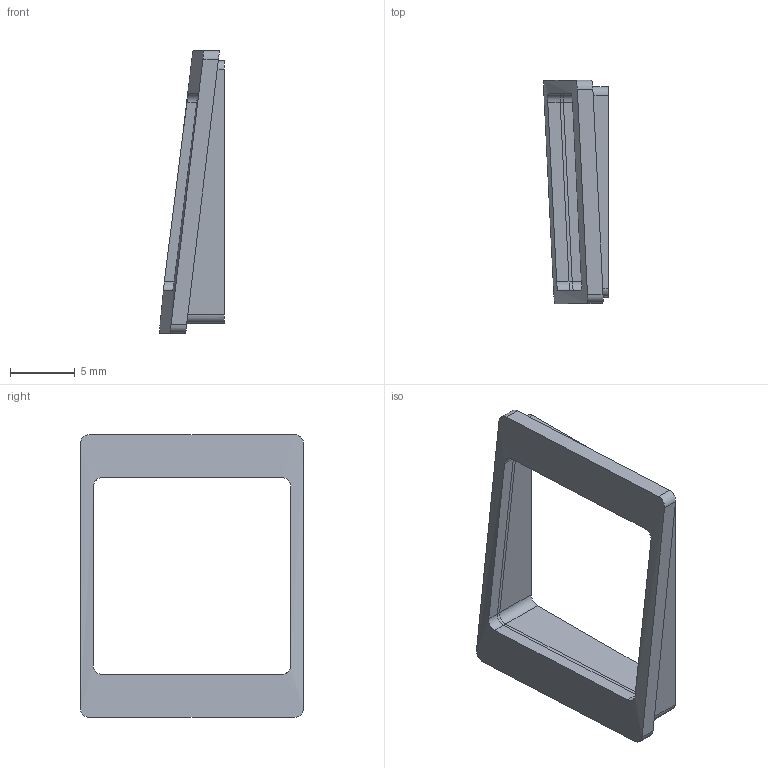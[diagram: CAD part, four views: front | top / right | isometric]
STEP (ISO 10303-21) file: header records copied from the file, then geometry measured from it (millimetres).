
FILE_DESCRIPTION(('Open CASCADE Model'),'2;1');
FILE_NAME('Open CASCADE Shape Model','2026-10-28T00:37:43',('Author'),( 'Open CASCADE'),'Open CASCADE STEP processor 7.8','Open CASCADE 7.8' ,'Unknown');
FILE_SCHEMA(('AUTOMOTIVE_DESIGN { 1 0 10303 214 1 1 1 1 }'));
Length unit declared in the file: millimetre
Products named in the file (1): Open CASCADE STEP translator 7.8 4
Bounding box: 5 x 17.2 x 21.8 mm (x, y, z)
Volume: 380.8 mm3; surface area: 740.5 mm2
Topology: 1 solids, 1 shells, 43 faces, 108 edges, 68 vertices
Faces by surface type: plane 21, cylinder 20, bspline 2
Entity records: 8765 total; most frequent: CARTESIAN_POINT 6879, DIRECTION 244, ORIENTED_EDGE 216, PCURVE 216, DEFINITIONAL_REPRESENTATION 216, B_SPLINE_CURVE_WITH_KNOTS 172, LINE 136, VECTOR 136
